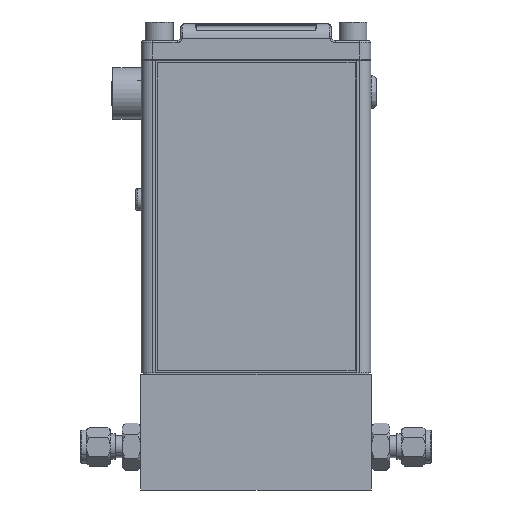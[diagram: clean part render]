
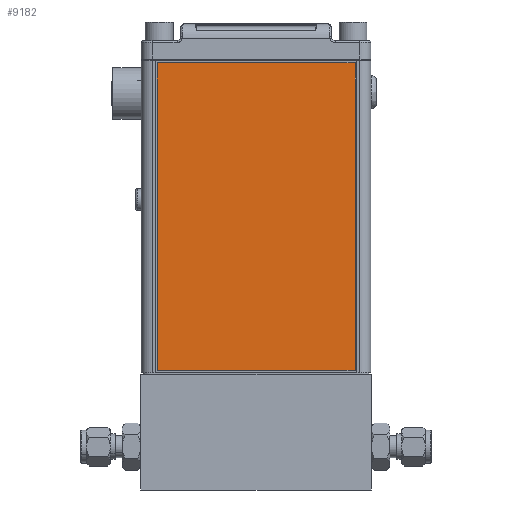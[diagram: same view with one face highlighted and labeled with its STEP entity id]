
A CAD part, front view. The second image highlights one B-rep face of the part: STEP entity #9182.
In plain terms, the highlighted planar face has unit normal (0, -1, 0).
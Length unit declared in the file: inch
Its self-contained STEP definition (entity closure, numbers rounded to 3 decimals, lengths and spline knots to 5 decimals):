
#1040 = CARTESIAN_POINT ( 'NONE',  ( 1.27678, -0.25061, 1.07514 ) ) ;
#1482 = AXIS2_PLACEMENT_3D ( 'NONE', #1040, #6002, #17560 ) ;
#1808 = VERTEX_POINT ( 'NONE', #9079 ) ;
#1836 = CARTESIAN_POINT ( 'NONE',  ( 2.94178, -0.25061, 1.07514 ) ) ;
#2321 = EDGE_LOOP ( 'NONE', ( #17610, #7813, #16439, #14846 ) ) ;
#3850 = DIRECTION ( 'NONE',  ( -1., 0., 0. ) ) ;
#4328 = PLANE ( 'NONE',  #1482 ) ;
#4964 = CARTESIAN_POINT ( 'NONE',  ( -0.38822, -0.25061, 1.07514 ) ) ;
#5743 = LINE ( 'NONE', #15331, #6764 ) ;
#6002 = DIRECTION ( 'NONE',  ( 0., -1., 0. ) ) ;
#6443 = VERTEX_POINT ( 'NONE', #12479 ) ;
#6500 = LINE ( 'NONE', #1836, #19175 ) ;
#6764 = VECTOR ( 'NONE', #3850, 39.37008 ) ;
#7529 = FACE_OUTER_BOUND ( 'NONE', #2321, .T. ) ;
#7813 = ORIENTED_EDGE ( 'NONE', *, *, #12334, .T. ) ;
#8507 = CARTESIAN_POINT ( 'NONE',  ( 1.27678, -0.25061, 1.07514 ) ) ;
#8998 = EDGE_CURVE ( 'NONE', #20487, #15076, #5743, .T. ) ;
#9079 = CARTESIAN_POINT ( 'NONE',  ( 2.94178, -0.25061, 1.07514 ) ) ;
#9182 = ADVANCED_FACE ( 'NONE', ( #7529 ), #4328, .T. ) ;
#9350 = VECTOR ( 'NONE', #14861, 39.37008 ) ;
#10525 = CARTESIAN_POINT ( 'NONE',  ( 2.94178, -0.25061, 6.24514 ) ) ;
#12330 = VECTOR ( 'NONE', #18395, 39.37008 ) ;
#12334 = EDGE_CURVE ( 'NONE', #6443, #1808, #17227, .T. ) ;
#12479 = CARTESIAN_POINT ( 'NONE',  ( -0.38822, -0.25061, 1.07514 ) ) ;
#13349 = DIRECTION ( 'NONE',  ( 0., 0., 1. ) ) ;
#14846 = ORIENTED_EDGE ( 'NONE', *, *, #8998, .T. ) ;
#14861 = DIRECTION ( 'NONE',  ( 0., 0., -1. ) ) ;
#15076 = VERTEX_POINT ( 'NONE', #17711 ) ;
#15331 = CARTESIAN_POINT ( 'NONE',  ( 1.27678, -0.25061, 6.24514 ) ) ;
#16439 = ORIENTED_EDGE ( 'NONE', *, *, #17871, .T. ) ;
#17227 = LINE ( 'NONE', #8507, #12330 ) ;
#17560 = DIRECTION ( 'NONE',  ( 0., 0., -1. ) ) ;
#17610 = ORIENTED_EDGE ( 'NONE', *, *, #18398, .T. ) ;
#17711 = CARTESIAN_POINT ( 'NONE',  ( -0.38822, -0.25061, 6.24514 ) ) ;
#17871 = EDGE_CURVE ( 'NONE', #1808, #20487, #6500, .T. ) ;
#18125 = LINE ( 'NONE', #4964, #9350 ) ;
#18395 = DIRECTION ( 'NONE',  ( 1., 0., 0. ) ) ;
#18398 = EDGE_CURVE ( 'NONE', #15076, #6443, #18125, .T. ) ;
#19175 = VECTOR ( 'NONE', #13349, 39.37008 ) ;
#20487 = VERTEX_POINT ( 'NONE', #10525 ) ;
